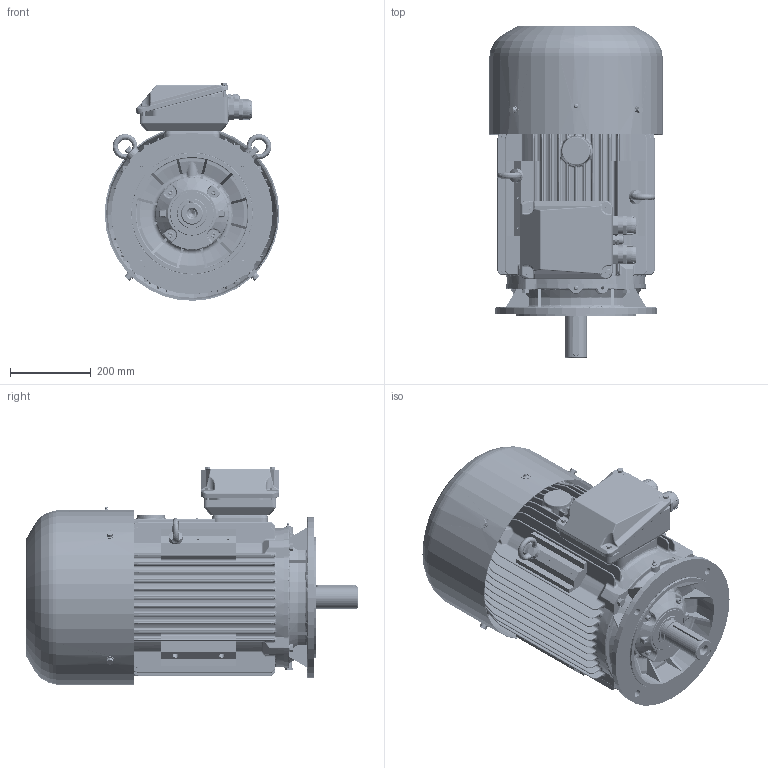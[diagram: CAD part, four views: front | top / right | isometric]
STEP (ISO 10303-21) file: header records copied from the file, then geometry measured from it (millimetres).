
FILE_DESCRIPTION(/* description */ ('Unknown'),/* implementation_level */ '2;1');
FILE_NAME(/* name */ 'SIEK200L2-12-K',/* time_stamp */ '2021-12-21T11:11:29+01:00',/* author */ ('Unknown'),/* organization */ ('Unknown'),/* preprocessor_version */ 'ST-DEVELOPER v16.7',/* originating_system */ 'DEX',/* authorisation */ $);
FILE_SCHEMA (('AUTOMOTIVE_DESIGN {1 0 10303 214 3 1 1}'));
Products named in the file (1): SIEK200L2-12-K
Bounding box: 432.91 x 823.5 x 539.86 mm (x, y, z)
Volume: 14016138.4 mm3; surface area: 4140811.7 mm2
Topology: 71 solids, 71 shells, 6346 faces, 15265 edges, 9001 vertices
Faces by surface type: cylinder 2245, plane 1594, bspline 1364, torus 684, cone 326, sphere 133
Full cylindrical faces by diameter (mm): 1.5 x2, 2.5 x2, 3.242 x2, 4 x2, 4.917 x2, 6 x4, 6.466 x4, 6.647 x12, 8 x12, 8.16 x6, 8.376 x8, 8.917 x2, 9 x9, 9.091 x2, 9.853 x4, 10 x30, 10.106 x8, 10.5 x5, 11 x2, 11.63 x4, 12 x8, 13 x7, 13.835 x5, 14 x14, 14.376 x2, 14.63 x6, 16 x3, 16.63 x4, 17 x1, 17.294 x1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
Entity records: 224256 total; most frequent: CARTESIAN_POINT 83786, ORIENTED_EDGE 29024, DIRECTION 27639, EDGE_CURVE 14512, AXIS2_PLACEMENT_3D 11357, VERTEX_POINT 8833, FACE_BOUND 7105, EDGE_LOOP 7075
